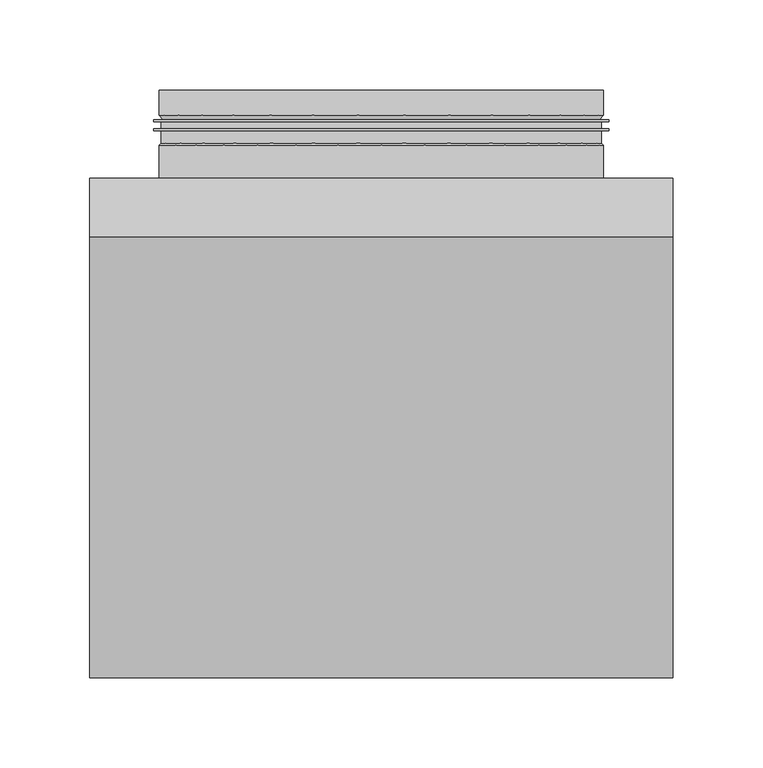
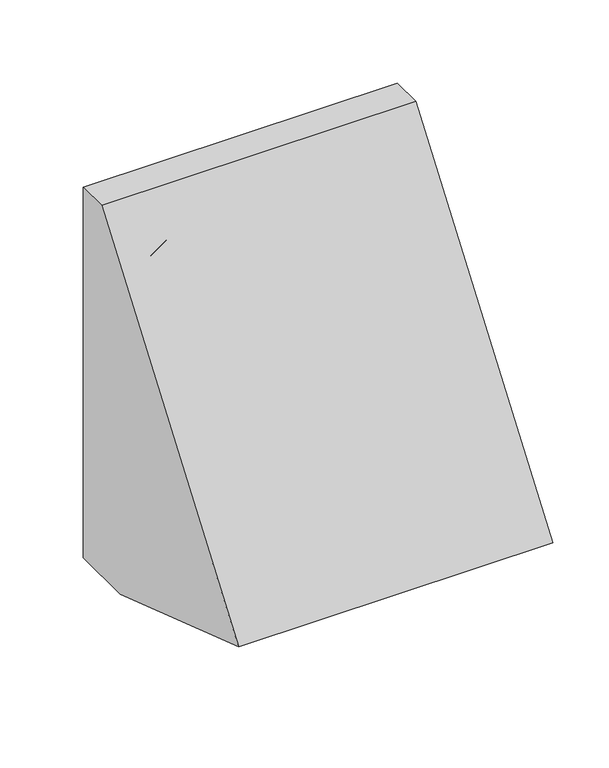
"""IFC4 building model written with IfcOpenShell, lengths in millimetres: air terminal geometry, NLRS_57_AIR_WPB_Elytra_WT_M&G : 324 x 404 x 278 - Ø 250 mm."""

from ifc_helpers import new_model, si_unit, frame, origin, place, context, project, spatial, polyline, circle_curve, faceted_brep, source, transform, mapped, element, save
from ifc_brep_helpers import plane_surface, cylinder_surface, revolved_surface, advanced_brep


def air_terminal_0787e866(model_context):
    return source(origin(), model_context, "Body", "SolidModel", [
        faceted_brep([(162.0, 0.0, 205.0), (162.0, -32.4210799, 205.0), (162.0, -277.6671198, -127.8649457), (162.0, -66.2177358, -199.0), (162.0, 0.0, -199.0), (-162.0, 0.0, 205.0), (-162.0, 0.0, -199.0), (-162.0, -66.2177358, -199.0), (-162.0, -277.6671198, -127.8649457), (-162.0, -32.4210799, 205.0), (160.0, -66.2177358, -199.0), (160.0, 0.0, -199.0), (-160.7366, 0.0, -199.0), (-160.7366, -66.2177358, -199.0), (-160.7366, -275.7403322, -128.5131488), (160.0, -275.7403322, -128.5131488), (160.0, 0.0, -159.0), (-160.7366, 0.0, -159.0), (160.0, 0.0, -157.0), (160.0, 0.0, 158.0), (-160.7366, 0.0, 158.0), (-160.7366, 0.0, -157.0), (-42.8, -32.5, 104.55), (-42.8, -30.5, 104.55), (-42.8, -30.5, 120.15), (-42.8, -32.5, 120.15), (-15.4, -30.5, 120.15), (-15.4, -32.5, 120.15), (-15.4, -30.5, 104.55), (-15.4, -32.5, 104.55), (-13.7, -32.5, 104.55), (-13.7, -30.5, 104.55), (-13.7, -30.5, 120.15), (-13.7, -32.5, 120.15), (13.7, -30.5, 120.15), (13.7, -32.5, 120.15), (13.7, -30.5, 104.55), (13.7, -32.5, 104.55), (15.4, -32.5, 104.55), (15.4, -30.5, 104.55), (15.4, -30.5, 120.15), (15.4, -32.5, 120.15), (42.8, -30.5, 120.15), (42.8, -32.5, 120.15), (42.8, -30.5, 104.55), (42.8, -32.5, 104.55), (-57.35, -32.5, 87.25), (-57.35, -30.5, 87.25), (-57.35, -30.5, 102.85), (-57.35, -32.5, 102.85), (-29.95, -30.5, 102.85), (-29.95, -32.5, 102.85), (-29.95, -30.5, 87.25), (-29.95, -32.5, 87.25), (-28.25, -32.5, 87.25), (-28.25, -30.5, 87.25), (-28.25, -30.5, 102.85), (-28.25, -32.5, 102.85), (-0.85, -30.5, 102.85), (-0.85, -32.5, 102.85), (-0.85, -30.5, 87.25), (-0.85, -32.5, 87.25), (0.85, -32.5, 87.25), (0.85, -30.5, 87.25), (0.85, -30.5, 102.85), (0.85, -32.5, 102.85), (28.25, -30.5, 102.85), (28.25, -32.5, 102.85), (28.25, -30.5, 87.25), (28.25, -32.5, 87.25), (29.95, -32.5, 87.25), (29.95, -30.5, 87.25), (29.95, -30.5, 102.85), (29.95, -32.5, 102.85), (57.35, -30.5, 102.85), (57.35, -32.5, 102.85), (57.35, -30.5, 87.25), (57.35, -32.5, 87.25), (-71.9, -32.5, 69.95), (-71.9, -30.5, 69.95), (-71.9, -30.5, 85.55), (-71.9, -32.5, 85.55), (-44.5, -30.5, 85.55), (-44.5, -32.5, 85.55), (-44.5, -30.5, 69.95), (-44.5, -32.5, 69.95), (-42.8, -32.5, 69.95), (-42.8, -30.5, 69.95), (-42.8, -30.5, 85.55), (-42.8, -32.5, 85.55), (-15.4, -30.5, 85.55), (-15.4, -32.5, 85.55), (-15.4, -30.5, 69.95), (-15.4, -32.5, 69.95), (-13.7, -32.5, 69.95), (-13.7, -30.5, 69.95), (-13.7, -30.5, 85.55), (-13.7, -32.5, 85.55), (13.7, -30.5, 85.55), (13.7, -32.5, 85.55), (13.7, -30.5, 69.95), (13.7, -32.5, 69.95), (15.4, -32.5, 69.95), (15.4, -30.5, 69.95), (15.4, -30.5, 85.55), (15.4, -32.5, 85.55), (42.8, -30.5, 85.55), (42.8, -32.5, 85.55), (42.8, -30.5, 69.95), (42.8, -32.5, 69.95), (44.5, -32.5, 69.95), (44.5, -30.5, 69.95), (44.5, -30.5, 85.55), (44.5, -32.5, 85.55), (71.9, -30.5, 85.55), (71.9, -32.5, 85.55), (71.9, -30.5, 69.95), (71.9, -32.5, 69.95), (-86.45, -32.5, 52.65), (-86.45, -30.5, 52.65), (-86.45, -30.5, 68.25), (-86.45, -32.5, 68.25), (-59.05, -30.5, 68.25), (-59.05, -32.5, 68.25), (-59.05, -30.5, 52.65), (-59.05, -32.5, 52.65), (-57.35, -32.5, 52.65), (-57.35, -30.5, 52.65), (-57.35, -30.5, 68.25), (-57.35, -32.5, 68.25), (-29.95, -30.5, 68.25), (-29.95, -32.5, 68.25), (-29.95, -30.5, 52.65), (-29.95, -32.5, 52.65), (-28.25, -32.5, 52.65), (-28.25, -30.5, 52.65), (-28.25, -30.5, 68.25), (-28.25, -32.5, 68.25), (-0.85, -30.5, 68.25), (-0.85, -32.5, 68.25), (-0.85, -30.5, 52.65), (-0.85, -32.5, 52.65), (0.85, -32.5, 52.65), (0.85, -30.5, 52.65), (0.85, -30.5, 68.25), (0.85, -32.5, 68.25), (28.25, -30.5, 68.25), (28.25, -32.5, 68.25), (28.25, -30.5, 52.65), (28.25, -32.5, 52.65), (29.95, -32.5, 52.65), (29.95, -30.5, 52.65), (29.95, -30.5, 68.25), (29.95, -32.5, 68.25), (57.35, -30.5, 68.25), (57.35, -32.5, 68.25), (57.35, -30.5, 52.65), (57.35, -32.5, 52.65), (59.05, -32.5, 52.65), (59.05, -30.5, 52.65), (59.05, -30.5, 68.25), (59.05, -32.5, 68.25), (86.45, -30.5, 68.25), (86.45, -32.5, 68.25), (86.45, -30.5, 52.65), (86.45, -32.5, 52.65), (-101.0, -32.5, 35.35), (-101.0, -30.5, 35.35), (-101.0, -30.5, 50.95), (-101.0, -32.5, 50.95), (-73.6, -30.5, 50.95), (-73.6, -32.5, 50.95), (-73.6, -30.5, 35.35), (-73.6, -32.5, 35.35), (-71.9, -32.5, 35.35), (-71.9, -30.5, 35.35), (-71.9, -30.5, 50.95), (-71.9, -32.5, 50.95), (-44.5, -30.5, 50.95), (-44.5, -32.5, 50.95), (-44.5, -30.5, 35.35), (-44.5, -32.5, 35.35), (-42.8, -32.5, 35.35), (-42.8, -30.5, 35.35), (-42.8, -30.5, 50.95), (-42.8, -32.5, 50.95), (-15.4, -30.5, 50.95), (-15.4, -32.5, 50.95), (-15.4, -30.5, 35.35), (-15.4, -32.5, 35.35), (-13.7, -32.5, 35.35), (-13.7, -30.5, 35.35), (-13.7, -30.5, 50.95), (-13.7, -32.5, 50.95), (13.7, -30.5, 50.95), (13.7, -32.5, 50.95), (13.7, -30.5, 35.35), (13.7, -32.5, 35.35), (15.4, -32.5, 35.35), (15.4, -30.5, 35.35), (15.4, -30.5, 50.95), (15.4, -32.5, 50.95), (42.8, -30.5, 50.95), (42.8, -32.5, 50.95), (42.8, -30.5, 35.35), (42.8, -32.5, 35.35), (44.5, -32.5, 35.35), (44.5, -30.5, 35.35), (44.5, -30.5, 50.95), (44.5, -32.5, 50.95), (71.9, -30.5, 50.95), (71.9, -32.5, 50.95), (71.9, -30.5, 35.35), (71.9, -32.5, 35.35), (73.6, -32.5, 35.35), (73.6, -30.5, 35.35), (73.6, -30.5, 50.95), (73.6, -32.5, 50.95), (101.0, -30.5, 50.95), (101.0, -32.5, 50.95), (101.0, -30.5, 35.35), (101.0, -32.5, 35.35), (-115.55, -32.5, 18.05), (-115.55, -30.5, 18.05), (-115.55, -30.5, 33.65), (-115.55, -32.5, 33.65), (-88.15, -30.5, 33.65), (-88.15, -32.5, 33.65), (-88.15, -30.5, 18.05), (-88.15, -32.5, 18.05), (-86.45, -32.5, 18.05), (-86.45, -30.5, 18.05), (-86.45, -30.5, 33.65), (-86.45, -32.5, 33.65), (-59.05, -30.5, 33.65), (-59.05, -32.5, 33.65), (-59.05, -30.5, 18.05), (-59.05, -32.5, 18.05), (-57.35, -32.5, 18.05), (-57.35, -30.5, 18.05), (-57.35, -30.5, 33.65), (-57.35, -32.5, 33.65), (-29.95, -30.5, 33.65), (-29.95, -32.5, 33.65), (-29.95, -30.5, 18.05), (-29.95, -32.5, 18.05), (-28.25, -32.5, 18.05), (-28.25, -30.5, 18.05), (-28.25, -30.5, 33.65), (-28.25, -32.5, 33.65), (-0.85, -30.5, 33.65), (-0.85, -32.5, 33.65), (-0.85, -30.5, 18.05), (-0.85, -32.5, 18.05), (0.85, -32.5, 18.05), (0.85, -30.5, 18.05), (0.85, -30.5, 33.65), (0.85, -32.5, 33.65), (28.25, -30.5, 33.65), (28.25, -32.5, 33.65), (28.25, -30.5, 18.05), (28.25, -32.5, 18.05), (29.95, -32.5, 18.05), (29.95, -30.5, 18.05), (29.95, -30.5, 33.65), (29.95, -32.5, 33.65), (57.35, -30.5, 33.65), (57.35, -32.5, 33.65), (57.35, -30.5, 18.05), (57.35, -32.5, 18.05), (59.05, -32.5, 18.05), (59.05, -30.5, 18.05), (59.05, -30.5, 33.65), (59.05, -32.5, 33.65), (86.45, -30.5, 33.65), (86.45, -32.5, 33.65), (86.45, -30.5, 18.05), (86.45, -32.5, 18.05), (88.15, -32.5, 18.05), (88.15, -30.5, 18.05), (88.15, -30.5, 33.65), (88.15, -32.5, 33.65), (115.55, -30.5, 33.65), (115.55, -32.5, 33.65), (115.55, -30.5, 18.05), (115.55, -32.5, 18.05), (-101.0, -32.5, 0.75), (-101.0, -30.5, 0.75), (-101.0, -30.5, 16.35), (-101.0, -32.5, 16.35), (-73.6, -30.5, 16.35), (-73.6, -32.5, 16.35), (-73.6, -30.5, 0.75), (-73.6, -32.5, 0.75), (-71.9, -32.5, 0.75), (-71.9, -30.5, 0.75), (-71.9, -30.5, 16.35), (-71.9, -32.5, 16.35), (-44.5, -30.5, 16.35), (-44.5, -32.5, 16.35), (-44.5, -30.5, 0.75), (-44.5, -32.5, 0.75), (-42.8, -32.5, 0.75), (-42.8, -30.5, 0.75), (-42.8, -30.5, 16.35), (-42.8, -32.5, 16.35), (-15.4, -30.5, 16.35), (-15.4, -32.5, 16.35), (-15.4, -30.5, 0.75), (-15.4, -32.5, 0.75), (-13.7, -32.5, 0.75), (-13.7, -30.5, 0.75), (-13.7, -30.5, 16.35), (-13.7, -32.5, 16.35), (13.7, -30.5, 16.35), (13.7, -32.5, 16.35), (13.7, -30.5, 0.75), (13.7, -32.5, 0.75), (15.4, -32.5, 0.75), (15.4, -30.5, 0.75), (15.4, -30.5, 16.35), (15.4, -32.5, 16.35), (42.8, -30.5, 16.35), (42.8, -32.5, 16.35), (42.8, -30.5, 0.75), (42.8, -32.5, 0.75), (44.5, -32.5, 0.75), (44.5, -30.5, 0.75), (44.5, -30.5, 16.35), (44.5, -32.5, 16.35), (71.9, -30.5, 16.35), (71.9, -32.5, 16.35), (71.9, -30.5, 0.75), (71.9, -32.5, 0.75), (73.6, -32.5, 0.75), (73.6, -30.5, 0.75), (73.6, -30.5, 16.35), (73.6, -32.5, 16.35), (101.0, -30.5, 16.35), (101.0, -32.5, 16.35), (101.0, -30.5, 0.75), (101.0, -32.5, 0.75), (-115.55, -32.5, -16.55), (-115.55, -30.5, -16.55), (-115.55, -30.5, -0.95), (-115.55, -32.5, -0.95), (-88.15, -30.5, -0.95), (-88.15, -32.5, -0.95), (-88.15, -30.5, -16.55), (-88.15, -32.5, -16.55), (-86.45, -32.5, -16.55), (-86.45, -30.5, -16.55), (-86.45, -30.5, -0.95), (-86.45, -32.5, -0.95), (-59.05, -30.5, -0.95), (-59.05, -32.5, -0.95), (-59.05, -30.5, -16.55), (-59.05, -32.5, -16.55), (-57.35, -32.5, -16.55), (-57.35, -30.5, -16.55), (-57.35, -30.5, -0.95), (-57.35, -32.5, -0.95), (-29.95, -30.5, -0.95), (-29.95, -32.5, -0.95), (-29.95, -30.5, -16.55), (-29.95, -32.5, -16.55), (-28.25, -32.5, -16.55), (-28.25, -30.5, -16.55), (-28.25, -30.5, -0.95), (-28.25, -32.5, -0.95), (-0.85, -30.5, -0.95), (-0.85, -32.5, -0.95), (-0.85, -30.5, -16.55), (-0.85, -32.5, -16.55), (0.85, -32.5, -16.55), (0.85, -30.5, -16.55), (0.85, -30.5, -0.95), (0.85, -32.5, -0.95), (28.25, -30.5, -0.95), (28.25, -32.5, -0.95), (28.25, -30.5, -16.55), (28.25, -32.5, -16.55), (29.95, -32.5, -16.55), (29.95, -30.5, -16.55), (29.95, -30.5, -0.95), (29.95, -32.5, -0.95), (57.35, -30.5, -0.95), (57.35, -32.5, -0.95), (57.35, -30.5, -16.55), (57.35, -32.5, -16.55), (59.05, -32.5, -16.55), (59.05, -30.5, -16.55), (59.05, -30.5, -0.95), (59.05, -32.5, -0.95), (86.45, -30.5, -0.95), (86.45, -32.5, -0.95), (86.45, -30.5, -16.55), (86.45, -32.5, -16.55), (88.15, -32.5, -16.55), (88.15, -30.5, -16.55), (88.15, -30.5, -0.95), (88.15, -32.5, -0.95), (115.55, -30.5, -0.95), (115.55, -32.5, -0.95), (115.55, -30.5, -16.55), (115.55, -32.5, -16.55), (-101.0, -32.5, -33.85), (-101.0, -30.5, -33.85), (-101.0, -30.5, -18.25), (-101.0, -32.5, -18.25), (-73.6, -30.5, -18.25), (-73.6, -32.5, -18.25), (-73.6, -30.5, -33.85), (-73.6, -32.5, -33.85), (-71.9, -32.5, -33.85), (-71.9, -30.5, -33.85), (-71.9, -30.5, -18.25), (-71.9, -32.5, -18.25), (-44.5, -30.5, -18.25), (-44.5, -32.5, -18.25), (-44.5, -30.5, -33.85), (-44.5, -32.5, -33.85), (-42.8, -32.5, -33.85), (-42.8, -30.5, -33.85), (-42.8, -30.5, -18.25), (-42.8, -32.5, -18.25), (-15.4, -30.5, -18.25), (-15.4, -32.5, -18.25), (-15.4, -30.5, -33.85), (-15.4, -32.5, -33.85), (-13.7, -32.5, -33.85), (-13.7, -30.5, -33.85), (-13.7, -30.5, -18.25), (-13.7, -32.5, -18.25), (13.7, -30.5, -18.25), (13.7, -32.5, -18.25), (13.7, -30.5, -33.85), (13.7, -32.5, -33.85), (15.4, -32.5, -33.85), (15.4, -30.5, -33.85), (15.4, -30.5, -18.25), (15.4, -32.5, -18.25), (42.8, -30.5, -18.25), (42.8, -32.5, -18.25), (42.8, -30.5, -33.85), (42.8, -32.5, -33.85), (44.5, -32.5, -33.85), (44.5, -30.5, -33.85), (44.5, -30.5, -18.25), (44.5, -32.5, -18.25), (71.9, -30.5, -18.25), (71.9, -32.5, -18.25), (71.9, -30.5, -33.85), (71.9, -32.5, -33.85), (73.6, -32.5, -33.85), (73.6, -30.5, -33.85), (73.6, -30.5, -18.25), (73.6, -32.5, -18.25), (101.0, -30.5, -18.25), (101.0, -32.5, -18.25), (101.0, -30.5, -33.85), (101.0, -32.5, -33.85), (-115.55, -32.5, -51.15), (-115.55, -30.5, -51.15), (-115.55, -30.5, -35.55), (-115.55, -32.5, -35.55), (-88.15, -30.5, -35.55), (-88.15, -32.5, -35.55), (-88.15, -30.5, -51.15), (-88.15, -32.5, -51.15), (-86.45, -32.5, -51.15), (-86.45, -30.5, -51.15), (-86.45, -30.5, -35.55), (-86.45, -32.5, -35.55), (-59.05, -30.5, -35.55), (-59.05, -32.5, -35.55), (-59.05, -30.5, -51.15), (-59.05, -32.5, -51.15), (-57.35, -32.5, -51.15), (-57.35, -30.5, -51.15), (-57.35, -30.5, -35.55), (-57.35, -32.5, -35.55), (-29.95, -30.5, -35.55), (-29.95, -32.5, -35.55), (-29.95, -30.5, -51.15), (-29.95, -32.5, -51.15), (-28.25, -32.5, -51.15), (-28.25, -30.5, -51.15), (-28.25, -30.5, -35.55), (-28.25, -32.5, -35.55), (-0.85, -30.5, -35.55), (-0.85, -32.5, -35.55), (-0.85, -30.5, -51.15), (-0.85, -32.5, -51.15), (0.85, -32.5, -51.15), (0.85, -30.5, -51.15), (0.85, -30.5, -35.55), (0.85, -32.5, -35.55), (28.25, -30.5, -35.55), (28.25, -32.5, -35.55), (28.25, -30.5, -51.15), (28.25, -32.5, -51.15), (29.95, -32.5, -51.15), (29.95, -30.5, -51.15), (29.95, -30.5, -35.55), (29.95, -32.5, -35.55), (57.35, -30.5, -35.55), (57.35, -32.5, -35.55), (57.35, -30.5, -51.15), (57.35, -32.5, -51.15), (59.05, -32.5, -51.15), (59.05, -30.5, -51.15), (59.05, -30.5, -35.55), (59.05, -32.5, -35.55), (86.45, -30.5, -35.55), (86.45, -32.5, -35.55), (86.45, -30.5, -51.15), (86.45, -32.5, -51.15), (88.15, -32.5, -51.15), (88.15, -30.5, -51.15), (88.15, -30.5, -35.55), (88.15, -32.5, -35.55), (115.55, -30.5, -35.55), (115.55, -32.5, -35.55), (115.55, -30.5, -51.15), (115.55, -32.5, -51.15), (-101.0, -32.5, -68.45), (-101.0, -30.5, -68.45), (-101.0, -30.5, -52.85), (-101.0, -32.5, -52.85), (-73.6, -30.5, -52.85), (-73.6, -32.5, -52.85), (-73.6, -30.5, -68.45), (-73.6, -32.5, -68.45), (-71.9, -32.5, -68.45), (-71.9, -30.5, -68.45), (-71.9, -30.5, -52.85), (-71.9, -32.5, -52.85), (-44.5, -30.5, -52.85), (-44.5, -32.5, -52.85), (-44.5, -30.5, -68.45), (-44.5, -32.5, -68.45), (-42.8, -32.5, -68.45), (-42.8, -30.5, -68.45), (-42.8, -30.5, -52.85), (-42.8, -32.5, -52.85), (-15.4, -30.5, -52.85), (-15.4, -32.5, -52.85), (-15.4, -30.5, -68.45), (-15.4, -32.5, -68.45), (-13.7, -32.5, -68.45), (-13.7, -30.5, -68.45), (-13.7, -30.5, -52.85), (-13.7, -32.5, -52.85), (13.7, -30.5, -52.85), (13.7, -32.5, -52.85), (13.7, -30.5, -68.45), (13.7, -32.5, -68.45), (15.4, -32.5, -68.45), (15.4, -30.5, -68.45), (15.4, -30.5, -52.85), (15.4, -32.5, -52.85), (42.8, -30.5, -52.85), (42.8, -32.5, -52.85), (42.8, -30.5, -68.45), (42.8, -32.5, -68.45), (44.5, -32.5, -68.45), (44.5, -30.5, -68.45), (44.5, -30.5, -52.85), (44.5, -32.5, -52.85), (71.9, -30.5, -52.85), (71.9, -32.5, -52.85), (71.9, -30.5, -68.45), (71.9, -32.5, -68.45), (73.6, -32.5, -68.45), (73.6, -30.5, -68.45), (73.6, -30.5, -52.85), (73.6, -32.5, -52.85), (101.0, -30.5, -52.85), (101.0, -32.5, -52.85), (101.0, -30.5, -68.45), (101.0, -32.5, -68.45), (-86.45, -32.5, -85.75), (-86.45, -30.5, -85.75), (-86.45, -30.5, -70.15), (-86.45, -32.5, -70.15), (-59.05, -30.5, -70.15), (-59.05, -32.5, -70.15), (-59.05, -30.5, -85.75), (-59.05, -32.5, -85.75), (-57.35, -32.5, -85.75), (-57.35, -30.5, -85.75), (-57.35, -30.5, -70.15), (-57.35, -32.5, -70.15), (-29.95, -30.5, -70.15), (-29.95, -32.5, -70.15), (-29.95, -30.5, -85.75), (-29.95, -32.5, -85.75), (-28.25, -32.5, -85.75), (-28.25, -30.5, -85.75), (-28.25, -30.5, -70.15), (-28.25, -32.5, -70.15), (-0.85, -30.5, -70.15), (-0.85, -32.5, -70.15), (-0.85, -30.5, -85.75), (-0.85, -32.5, -85.75), (0.85, -32.5, -85.75), (0.85, -30.5, -85.75), (0.85, -30.5, -70.15), (0.85, -32.5, -70.15), (28.25, -30.5, -70.15), (28.25, -32.5, -70.15), (28.25, -30.5, -85.75), (28.25, -32.5, -85.75), (29.95, -32.5, -85.75), (29.95, -30.5, -85.75), (29.95, -30.5, -70.15), (29.95, -32.5, -70.15), (57.35, -30.5, -70.15), (57.35, -32.5, -70.15), (57.35, -30.5, -85.75), (57.35, -32.5, -85.75), (59.05, -32.5, -85.75), (59.05, -30.5, -85.75), (59.05, -30.5, -70.15), (59.05, -32.5, -70.15), (86.45, -30.5, -70.15), (86.45, -32.5, -70.15), (86.45, -30.5, -85.75), (86.45, -32.5, -85.75), (-71.9, -32.5, -103.05), (-71.9, -30.5, -103.05), (-71.9, -30.5, -87.45), (-71.9, -32.5, -87.45), (-44.5, -30.5, -87.45), (-44.5, -32.5, -87.45), (-44.5, -30.5, -103.05), (-44.5, -32.5, -103.05), (-42.8, -32.5, -103.05), (-42.8, -30.5, -103.05), (-42.8, -30.5, -87.45), (-42.8, -32.5, -87.45), (-15.4, -30.5, -87.45), (-15.4, -32.5, -87.45), (-15.4, -30.5, -103.05), (-15.4, -32.5, -103.05), (-13.7, -32.5, -103.05), (-13.7, -30.5, -103.05), (-13.7, -30.5, -87.45), (-13.7, -32.5, -87.45), (13.7, -30.5, -87.45), (13.7, -32.5, -87.45), (13.7, -30.5, -103.05), (13.7, -32.5, -103.05), (15.4, -32.5, -103.05), (15.4, -30.5, -103.05), (15.4, -30.5, -87.45), (15.4, -32.5, -87.45), (42.8, -30.5, -87.45), (42.8, -32.5, -87.45), (42.8, -30.5, -103.05), (42.8, -32.5, -103.05), (44.5, -32.5, -103.05), (44.5, -30.5, -103.05), (44.5, -30.5, -87.45), (44.5, -32.5, -87.45), (71.9, -30.5, -87.45), (71.9, -32.5, -87.45), (71.9, -30.5, -103.05), (71.9, -32.5, -103.05), (-28.25, -32.5, -120.35), (-28.25, -30.5, -120.35), (-28.25, -30.5, -104.75), (-28.25, -32.5, -104.75), (-0.85, -30.5, -104.75), (-0.85, -32.5, -104.75), (-0.85, -30.5, -120.35), (-0.85, -32.5, -120.35), (0.85, -32.5, -120.35), (0.85, -30.5, -120.35), (0.85, -30.5, -104.75), (0.85, -32.5, -104.75), (28.25, -30.5, -104.75), (28.25, -32.5, -104.75), (28.25, -30.5, -120.35), (28.25, -32.5, -120.35), (-114.2, -32.5, 0.75), (-114.2, -30.5, 0.75), (-114.2, -30.5, 16.35), (-114.2, -32.5, 16.35), (-102.7, -30.5, 16.35), (-102.7, -32.5, 16.35), (-102.7, -30.5, 0.75), (-102.7, -32.5, 0.75), (-114.2, -32.5, 35.35), (-114.2, -30.5, 35.35), (-114.2, -30.5, 50.95), (-114.2, -32.5, 50.95), (-102.7, -30.5, 50.95), (-102.7, -32.5, 50.95), (-102.7, -30.5, 35.35), (-102.7, -32.5, 35.35), (-99.65, -32.5, 52.65), (-99.65, -30.5, 52.65), (-99.65, -30.5, 68.25), (-99.65, -32.5, 68.25), (-88.15, -30.5, 68.25), (-88.15, -32.5, 68.25), (-88.15, -30.5, 52.65), (-88.15, -32.5, 52.65), (-85.1, -32.5, 69.95), (-85.1, -30.5, 69.95), (-85.1, -30.5, 85.55), (-85.1, -32.5, 85.55), (-73.6, -30.5, 85.55), (-73.6, -32.5, 85.55), (-73.6, -30.5, 69.95), (-73.6, -32.5, 69.95), (-70.55, -32.5, 87.25), (-70.55, -30.5, 87.25), (-70.55, -30.5, 102.85), (-70.55, -32.5, 102.85), (-59.05, -30.5, 102.85), (-59.05, -32.5, 102.85), (-59.05, -30.5, 87.25), (-59.05, -32.5, 87.25), (114.2, -32.5, 35.35), (114.2, -30.5, 35.35), (102.7, -30.5, 35.35), (102.7, -32.5, 35.35), (102.7, -30.5, 50.95), (102.7, -32.5, 50.95), (114.2, -30.5, 50.95), (114.2, -32.5, 50.95), (99.65, -32.5, 52.65), (99.65, -30.5, 52.65), (88.15, -30.5, 52.65), (88.15, -32.5, 52.65), (88.15, -30.5, 68.25), (88.15, -32.5, 68.25), (99.65, -30.5, 68.25), (99.65, -32.5, 68.25), (85.1, -32.5, 69.95), (85.1, -30.5, 69.95), (73.6, -30.5, 69.95), (73.6, -32.5, 69.95), (73.6, -30.5, 85.55), (73.6, -32.5, 85.55), (85.1, -30.5, 85.55), (85.1, -32.5, 85.55), (70.55, -32.5, 87.25), (70.55, -30.5, 87.25), (59.05, -30.5, 87.25), (59.05, -32.5, 87.25), (59.05, -30.5, 102.85), (59.05, -32.5, 102.85), (70.55, -30.5, 102.85), (70.55, -32.5, 102.85), (114.2, -32.5, 0.75), (114.2, -30.5, 0.75), (102.7, -30.5, 0.75), (102.7, -32.5, 0.75), (102.7, -30.5, 16.35), (102.7, -32.5, 16.35), (114.2, -30.5, 16.35), (114.2, -32.5, 16.35), (-114.2, -32.5, -33.85), (-114.2, -30.5, -33.85), (-114.2, -30.5, -18.25), (-114.2, -32.5, -18.25), (-102.7, -30.5, -18.25), (-102.7, -32.5, -18.25), (-102.7, -30.5, -33.85), (-102.7, -32.5, -33.85), (-41.45, -32.5, -120.35), (-41.45, -30.5, -120.35), (-41.45, -30.5, -104.75), (-41.45, -32.5, -104.75), (-29.95, -30.5, -104.75), (-29.95, -32.5, -104.75), (-29.95, -30.5, -120.35), (-29.95, -32.5, -120.35), (114.2, -32.5, -33.85), (114.2, -30.5, -33.85), (102.7, -30.5, -33.85), (102.7, -32.5, -33.85), (102.7, -30.5, -18.25), (102.7, -32.5, -18.25), (114.2, -30.5, -18.25), (114.2, -32.5, -18.25), (41.45, -32.5, -120.35), (41.45, -30.5, -120.35), (29.95, -30.5, -120.35), (29.95, -32.5, -120.35), (29.95, -30.5, -104.75), (29.95, -32.5, -104.75), (41.45, -30.5, -104.75), (41.45, -32.5, -104.75), (160.0, -30.5, -157.0), (160.0, -30.5, 158.0), (160.0, -2.0, 203.5), (160.0, -2.0, 160.0), (160.0, -32.5, 160.0), (160.0, -32.5, -159.0), (160.0, -31.1199938, 203.5), (-160.7366, -2.0, 203.5), (-160.7366, -31.1199938, 203.5), (-160.7366, -32.5, -159.0), (-160.7366, -32.5, 160.0), (-160.7366, -2.0, 160.0), (-160.7366, -30.5, 158.0), (-160.7366, -30.5, -157.0)], [[[0, 1, 2, 3, 4]], [[5, 6, 7, 8, 9]], [[1, 0, 5, 9]], [[2, 1, 9, 8]], [[4, 3, 10, 11]], [[7, 6, 12, 13]], [[3, 2, 8, 7, 13, 14, 15, 10]], [[0, 4, 11, 16, 17, 12, 6, 5], [18, 19, 20, 21]], [[22, 23, 24, 25]], [[25, 24, 26, 27]], [[27, 26, 28, 29]], [[23, 22, 29, 28]], [[30, 31, 32, 33]], [[33, 32, 34, 35]], [[35, 34, 36, 37]], [[31, 30, 37, 36]], [[38, 39, 40, 41]], [[41, 40, 42, 43]], [[43, 42, 44, 45]], [[39, 38, 45, 44]], [[46, 47, 48, 49]], [[49, 48, 50, 51]], [[51, 50, 52, 53]], [[47, 46, 53, 52]], [[54, 55, 56, 57]], [[57, 56, 58, 59]], [[59, 58, 60, 61]], [[55, 54, 61, 60]], [[62, 63, 64, 65]], [[65, 64, 66, 67]], [[67, 66, 68, 69]], [[63, 62, 69, 68]], [[70, 71, 72, 73]], [[73, 72, 74, 75]], [[75, 74, 76, 77]], [[71, 70, 77, 76]], [[78, 79, 80, 81]], [[81, 80, 82, 83]], [[83, 82, 84, 85]], [[79, 78, 85, 84]], [[86, 87, 88, 89]], [[89, 88, 90, 91]], [[91, 90, 92, 93]], [[87, 86, 93, 92]], [[94, 95, 96, 97]], [[97, 96, 98, 99]], [[99, 98, 100, 101]], [[95, 94, 101, 100]], [[102, 103, 104, 105]], [[105, 104, 106, 107]], [[107, 106, 108, 109]], [[103, 102, 109, 108]], [[110, 111, 112, 113]], [[113, 112, 114, 115]], [[115, 114, 116, 117]], [[111, 110, 117, 116]], [[118, 119, 120, 121]], [[121, 120, 122, 123]], [[123, 122, 124, 125]], [[119, 118, 125, 124]], [[126, 127, 128, 129]], [[129, 128, 130, 131]], [[131, 130, 132, 133]], [[127, 126, 133, 132]], [[134, 135, 136, 137]], [[137, 136, 138, 139]], [[139, 138, 140, 141]], [[135, 134, 141, 140]], [[142, 143, 144, 145]], [[145, 144, 146, 147]], [[147, 146, 148, 149]], [[143, 142, 149, 148]], [[150, 151, 152, 153]], [[153, 152, 154, 155]], [[155, 154, 156, 157]], [[151, 150, 157, 156]], [[158, 159, 160, 161]], [[161, 160, 162, 163]], [[163, 162, 164, 165]], [[159, 158, 165, 164]], [[166, 167, 168, 169]], [[169, 168, 170, 171]], [[171, 170, 172, 173]], [[167, 166, 173, 172]], [[174, 175, 176, 177]], [[177, 176, 178, 179]], [[179, 178, 180, 181]], [[175, 174, 181, 180]], [[182, 183, 184, 185]], [[185, 184, 186, 187]], [[187, 186, 188, 189]], [[183, 182, 189, 188]], [[190, 191, 192, 193]], [[193, 192, 194, 195]], [[195, 194, 196, 197]], [[191, 190, 197, 196]], [[198, 199, 200, 201]], [[201, 200, 202, 203]], [[203, 202, 204, 205]], [[199, 198, 205, 204]], [[206, 207, 208, 209]], [[209, 208, 210, 211]], [[211, 210, 212, 213]], [[207, 206, 213, 212]], [[214, 215, 216, 217]], [[217, 216, 218, 219]], [[219, 218, 220, 221]], [[215, 214, 221, 220]], [[222, 223, 224, 225]], [[225, 224, 226, 227]], [[227, 226, 228, 229]], [[223, 222, 229, 228]], [[230, 231, 232, 233]], [[233, 232, 234, 235]], [[235, 234, 236, 237]], [[231, 230, 237, 236]], [[238, 239, 240, 241]], [[241, 240, 242, 243]], [[243, 242, 244, 245]], [[239, 238, 245, 244]], [[246, 247, 248, 249]], [[249, 248, 250, 251]], [[251, 250, 252, 253]], [[247, 246, 253, 252]], [[254, 255, 256, 257]], [[257, 256, 258, 259]], [[259, 258, 260, 261]], [[255, 254, 261, 260]], [[262, 263, 264, 265]], [[265, 264, 266, 267]], [[267, 266, 268, 269]], [[263, 262, 269, 268]], [[270, 271, 272, 273]], [[273, 272, 274, 275]], [[275, 274, 276, 277]], [[271, 270, 277, 276]], [[278, 279, 280, 281]], [[281, 280, 282, 283]], [[283, 282, 284, 285]], [[279, 278, 285, 284]], [[286, 287, 288, 289]], [[289, 288, 290, 291]], [[291, 290, 292, 293]], [[287, 286, 293, 292]], [[294, 295, 296, 297]], [[297, 296, 298, 299]], [[299, 298, 300, 301]], [[295, 294, 301, 300]], [[302, 303, 304, 305]], [[305, 304, 306, 307]], [[307, 306, 308, 309]], [[303, 302, 309, 308]], [[310, 311, 312, 313]], [[313, 312, 314, 315]], [[315, 314, 316, 317]], [[311, 310, 317, 316]], [[318, 319, 320, 321]], [[321, 320, 322, 323]], [[323, 322, 324, 325]], [[319, 318, 325, 324]], [[326, 327, 328, 329]], [[329, 328, 330, 331]], [[331, 330, 332, 333]], [[327, 326, 333, 332]], [[334, 335, 336, 337]], [[337, 336, 338, 339]], [[339, 338, 340, 341]], [[335, 334, 341, 340]], [[342, 343, 344, 345]], [[345, 344, 346, 347]], [[347, 346, 348, 349]], [[343, 342, 349, 348]], [[350, 351, 352, 353]], [[353, 352, 354, 355]], [[355, 354, 356, 357]], [[351, 350, 357, 356]], [[358, 359, 360, 361]], [[361, 360, 362, 363]], [[363, 362, 364, 365]], [[359, 358, 365, 364]], [[366, 367, 368, 369]], [[369, 368, 370, 371]], [[371, 370, 372, 373]], [[367, 366, 373, 372]], [[374, 375, 376, 377]], [[377, 376, 378, 379]], [[379, 378, 380, 381]], [[375, 374, 381, 380]], [[382, 383, 384, 385]], [[385, 384, 386, 387]], [[387, 386, 388, 389]], [[383, 382, 389, 388]], [[390, 391, 392, 393]], [[393, 392, 394, 395]], [[395, 394, 396, 397]], [[391, 390, 397, 396]], [[398, 399, 400, 401]], [[401, 400, 402, 403]], [[403, 402, 404, 405]], [[399, 398, 405, 404]], [[406, 407, 408, 409]], [[409, 408, 410, 411]], [[411, 410, 412, 413]], [[407, 406, 413, 412]], [[414, 415, 416, 417]], [[417, 416, 418, 419]], [[419, 418, 420, 421]], [[415, 414, 421, 420]], [[422, 423, 424, 425]], [[425, 424, 426, 427]], [[427, 426, 428, 429]], [[423, 422, 429, 428]], [[430, 431, 432, 433]], [[433, 432, 434, 435]], [[435, 434, 436, 437]], [[431, 430, 437, 436]], [[438, 439, 440, 441]], [[441, 440, 442, 443]], [[443, 442, 444, 445]], [[439, 438, 445, 444]], [[446, 447, 448, 449]], [[449, 448, 450, 451]], [[451, 450, 452, 453]], [[447, 446, 453, 452]], [[454, 455, 456, 457]], [[457, 456, 458, 459]], [[459, 458, 460, 461]], [[455, 454, 461, 460]], [[462, 463, 464, 465]], [[465, 464, 466, 467]], [[467, 466, 468, 469]], [[463, 462, 469, 468]], [[470, 471, 472, 473]], [[473, 472, 474, 475]], [[475, 474, 476, 477]], [[471, 470, 477, 476]], [[478, 479, 480, 481]], [[481, 480, 482, 483]], [[483, 482, 484, 485]], [[479, 478, 485, 484]], [[486, 487, 488, 489]], [[489, 488, 490, 491]], [[491, 490, 492, 493]], [[487, 486, 493, 492]], [[494, 495, 496, 497]], [[497, 496, 498, 499]], [[499, 498, 500, 501]], [[495, 494, 501, 500]], [[502, 503, 504, 505]], [[505, 504, 506, 507]], [[507, 506, 508, 509]], [[503, 502, 509, 508]], [[510, 511, 512, 513]], [[513, 512, 514, 515]], [[515, 514, 516, 517]], [[511, 510, 517, 516]], [[518, 519, 520, 521]], [[521, 520, 522, 523]], [[523, 522, 524, 525]], [[519, 518, 525, 524]], [[526, 527, 528, 529]], [[529, 528, 530, 531]], [[531, 530, 532, 533]], [[527, 526, 533, 532]], [[534, 535, 536, 537]], [[537, 536, 538, 539]], [[539, 538, 540, 541]], [[535, 534, 541, 540]], [[542, 543, 544, 545]], [[545, 544, 546, 547]], [[547, 546, 548, 549]], [[543, 542, 549, 548]], [[550, 551, 552, 553]], [[553, 552, 554, 555]], [[555, 554, 556, 557]], [[551, 550, 557, 556]], [[558, 559, 560, 561]], [[561, 560, 562, 563]], [[563, 562, 564, 565]], [[559, 558, 565, 564]], [[566, 567, 568, 569]], [[569, 568, 570, 571]], [[571, 570, 572, 573]], [[567, 566, 573, 572]], [[574, 575, 576, 577]], [[577, 576, 578, 579]], [[579, 578, 580, 581]], [[575, 574, 581, 580]], [[582, 583, 584, 585]], [[585, 584, 586, 587]], [[587, 586, 588, 589]], [[583, 582, 589, 588]], [[590, 591, 592, 593]], [[593, 592, 594, 595]], [[595, 594, 596, 597]], [[591, 590, 597, 596]], [[598, 599, 600, 601]], [[601, 600, 602, 603]], [[603, 602, 604, 605]], [[599, 598, 605, 604]], [[606, 607, 608, 609]], [[609, 608, 610, 611]], [[611, 610, 612, 613]], [[607, 606, 613, 612]], [[614, 615, 616, 617]], [[617, 616, 618, 619]], [[619, 618, 620, 621]], [[615, 614, 621, 620]], [[622, 623, 624, 625]], [[625, 624, 626, 627]], [[627, 626, 628, 629]], [[623, 622, 629, 628]], [[630, 631, 632, 633]], [[633, 632, 634, 635]], [[635, 634, 636, 637]], [[631, 630, 637, 636]], [[638, 639, 640, 641]], [[641, 640, 642, 643]], [[643, 642, 644, 645]], [[639, 638, 645, 644]], [[646, 647, 648, 649]], [[649, 648, 650, 651]], [[651, 650, 652, 653]], [[647, 646, 653, 652]], [[654, 655, 656, 657]], [[657, 656, 658, 659]], [[659, 658, 660, 661]], [[655, 654, 661, 660]], [[662, 663, 664, 665]], [[665, 664, 666, 667]], [[667, 666, 668, 669]], [[663, 662, 669, 668]], [[670, 671, 672, 673]], [[673, 672, 674, 675]], [[675, 674, 676, 677]], [[671, 670, 677, 676]], [[678, 679, 680, 681]], [[681, 680, 682, 683]], [[683, 682, 684, 685]], [[679, 678, 685, 684]], [[686, 687, 688, 689]], [[689, 688, 690, 691]], [[691, 690, 692, 693]], [[687, 686, 693, 692]], [[694, 695, 696, 697]], [[697, 696, 698, 699]], [[699, 698, 700, 701]], [[695, 694, 701, 700]], [[702, 703, 704, 705]], [[705, 704, 706, 707]], [[707, 706, 708, 709]], [[703, 702, 709, 708]], [[710, 711, 712, 713]], [[713, 712, 714, 715]], [[715, 714, 716, 717]], [[711, 710, 717, 716]], [[718, 719, 720, 721]], [[721, 720, 722, 723]], [[723, 722, 724, 725]], [[719, 718, 725, 724]], [[726, 727, 728, 729]], [[729, 728, 730, 731]], [[731, 730, 732, 733]], [[727, 726, 733, 732]], [[734, 735, 736, 737]], [[737, 736, 738, 739]], [[739, 738, 740, 741]], [[735, 734, 741, 740]], [[742, 743, 744, 745]], [[745, 744, 746, 747]], [[747, 746, 748, 749]], [[743, 742, 749, 748]], [[750, 751, 752, 753]], [[753, 752, 754, 755]], [[755, 754, 756, 757]], [[751, 750, 757, 756]], [[758, 759, 760, 761]], [[761, 760, 762, 763]], [[763, 762, 764, 765]], [[759, 758, 765, 764]], [[766, 767, 768, 769]], [[769, 768, 770, 771]], [[771, 770, 772, 773]], [[767, 766, 773, 772]], [[774, 775, 776, 777]], [[777, 776, 778, 779]], [[779, 778, 780, 781]], [[775, 774, 781, 780]], [[782, 783, 784, 785]], [[785, 784, 786, 787]], [[787, 786, 788, 789]], [[783, 782, 789, 788]], [[790, 791, 792, 793]], [[793, 792, 794, 795]], [[795, 794, 796, 797]], [[791, 790, 797, 796]], [[18, 798, 799, 19]], [[800, 801, 802, 803, 16, 11, 10, 15, 804]], [[805, 806, 14, 13, 12, 17, 807, 808, 809]], [[20, 810, 811, 21]], [[800, 804, 806, 805]], [[804, 15, 14, 806]], [[16, 803, 807, 17]], [[803, 802, 808, 807], [22, 25, 27, 29], [30, 33, 35, 37], [38, 41, 43, 45], [46, 49, 51, 53], [54, 57, 59, 61], [62, 65, 67, 69], [70, 73, 75, 77], [78, 81, 83, 85], [86, 89, 91, 93], [94, 97, 99, 101], [102, 105, 107, 109], [110, 113, 115, 117], [118, 121, 123, 125], [126, 129, 131, 133], [134, 137, 139, 141], [142, 145, 147, 149], [150, 153, 155, 157], [158, 161, 163, 165], [166, 169, 171, 173], [174, 177, 179, 181], [182, 185, 187, 189], [190, 193, 195, 197], [198, 201, 203, 205], [206, 209, 211, 213], [214, 217, 219, 221], [222, 225, 227, 229], [230, 233, 235, 237], [238, 241, 243, 245], [246, 249, 251, 253], [254, 257, 259, 261], [262, 265, 267, 269], [270, 273, 275, 277], [278, 281, 283, 285], [286, 289, 291, 293], [294, 297, 299, 301], [302, 305, 307, 309], [310, 313, 315, 317], [318, 321, 323, 325], [326, 329, 331, 333], [334, 337, 339, 341], [342, 345, 347, 349], [350, 353, 355, 357], [358, 361, 363, 365], [366, 369, 371, 373], [374, 377, 379, 381], [382, 385, 387, 389], [390, 393, 395, 397], [398, 401, 403, 405], [406, 409, 411, 413], [414, 417, 419, 421], [422, 425, 427, 429], [430, 433, 435, 437], [438, 441, 443, 445], [446, 449, 451, 453], [454, 457, 459, 461], [462, 465, 467, 469], [470, 473, 475, 477], [478, 481, 483, 485], [486, 489, 491, 493], [494, 497, 499, 501], [502, 505, 507, 509], [510, 513, 515, 517], [518, 521, 523, 525], [526, 529, 531, 533], [534, 537, 539, 541], [542, 545, 547, 549], [550, 553, 555, 557], [558, 561, 563, 565], [566, 569, 571, 573], [574, 577, 579, 581], [582, 585, 587, 589], [590, 593, 595, 597], [598, 601, 603, 605], [606, 609, 611, 613], [614, 617, 619, 621], [622, 625, 627, 629], [630, 633, 635, 637], [638, 641, 643, 645], [646, 649, 651, 653], [654, 657, 659, 661], [662, 665, 667, 669], [670, 673, 675, 677], [678, 681, 683, 685], [686, 689, 691, 693], [694, 697, 699, 701], [702, 705, 707, 709], [710, 713, 715, 717], [718, 721, 723, 725], [726, 729, 731, 733], [734, 737, 739, 741], [742, 745, 747, 749], [750, 753, 755, 757], [758, 761, 763, 765], [766, 769, 771, 773], [774, 777, 779, 781], [782, 785, 787, 789], [790, 793, 795, 797]], [[802, 801, 809, 808]], [[19, 799, 810, 20]], [[799, 798, 811, 810], [24, 23, 28, 26], [32, 31, 36, 34], [40, 39, 44, 42], [48, 47, 52, 50], [56, 55, 60, 58], [64, 63, 68, 66], [72, 71, 76, 74], [80, 79, 84, 82], [88, 87, 92, 90], [96, 95, 100, 98], [104, 103, 108, 106], [112, 111, 116, 114], [120, 119, 124, 122], [128, 127, 132, 130], [136, 135, 140, 138], [144, 143, 148, 146], [152, 151, 156, 154], [160, 159, 164, 162], [168, 167, 172, 170], [176, 175, 180, 178], [184, 183, 188, 186], [192, 191, 196, 194], [200, 199, 204, 202], [208, 207, 212, 210], [216, 215, 220, 218], [224, 223, 228, 226], [232, 231, 236, 234], [240, 239, 244, 242], [248, 247, 252, 250], [256, 255, 260, 258], [264, 263, 268, 266], [272, 271, 276, 274], [280, 279, 284, 282], [288, 287, 292, 290], [296, 295, 300, 298], [304, 303, 308, 306], [312, 311, 316, 314], [320, 319, 324, 322], [328, 327, 332, 330], [336, 335, 340, 338], [344, 343, 348, 346], [352, 351, 356, 354], [360, 359, 364, 362], [368, 367, 372, 370], [376, 375, 380, 378], [384, 383, 388, 386], [392, 391, 396, 394], [400, 399, 404, 402], [408, 407, 412, 410], [416, 415, 420, 418], [424, 423, 428, 426], [432, 431, 436, 434], [440, 439, 444, 442], [448, 447, 452, 450], [456, 455, 460, 458], [464, 463, 468, 466], [472, 471, 476, 474], [480, 479, 484, 482], [488, 487, 492, 490], [496, 495, 500, 498], [504, 503, 508, 506], [512, 511, 516, 514], [520, 519, 524, 522], [528, 527, 532, 530], [536, 535, 540, 538], [544, 543, 548, 546], [552, 551, 556, 554], [560, 559, 564, 562], [568, 567, 572, 570], [576, 575, 580, 578], [584, 583, 588, 586], [592, 591, 596, 594], [600, 599, 604, 602], [608, 607, 612, 610], [616, 615, 620, 618], [624, 623, 628, 626], [632, 631, 636, 634], [640, 639, 644, 642], [648, 647, 652, 650], [656, 655, 660, 658], [664, 663, 668, 666], [672, 671, 676, 674], [680, 679, 684, 682], [688, 687, 692, 690], [696, 695, 700, 698], [704, 703, 708, 706], [712, 711, 716, 714], [720, 719, 724, 722], [728, 727, 732, 730], [736, 735, 740, 738], [744, 743, 748, 746], [752, 751, 756, 754], [760, 759, 764, 762], [768, 767, 772, 770], [776, 775, 780, 778], [784, 783, 788, 786], [792, 791, 796, 794]], [[798, 18, 21, 811]], [[801, 800, 805, 809]]]),
        advanced_brep(
        [(123.5, 35.0, 0.0), (-123.5, 35.0, 0.0), (-123.5, 49.0, 0.0), (123.5, 49.0, 0.0), (121.208232, 32.3635612, 0.0), (-121.208232, 32.3635612, 0.0), (126.5, 32.3635612, 0.0), (-126.5, 32.3635612, 0.0), (126.5, 31.3635612, 0.0), (-126.5, 31.3635612, 0.0), (122.5, 31.3635612, 0.0), (-122.5, 31.3635612, 0.0), (122.5, 27.3635612, 0.0), (-122.5, 27.3635612, 0.0), (126.5, 27.3635612, 0.0), (-126.5, 27.3635612, 0.0), (126.5, 26.3635612, 0.0), (-126.5, 26.3635612, 0.0), (122.5, 26.3635612, 0.0), (-122.5, 26.3635612, 0.0), (122.5, 19.4409318, 0.0), (-122.5, 19.4409318, 0.0), (123.5, 18.4409318, 0.0), (-123.5, 18.4409318, 0.0), (123.5, -29.5590682, 0.0), (-123.5, -29.5590682, 0.0), (133.5, -29.5590682, 0.0), (-133.5, -29.5590682, 0.0), (133.5, -30.5, 0.0), (-133.5, -30.5, 0.0), (122.5, -30.5, 0.0), (-122.5, -30.5, 0.0), (122.5, 18.0267182, 0.0), (-122.5, 18.0267182, 0.0), (120.3389655, 20.1877527, 0.0), (-120.3389655, 20.1877527, 0.0), (122.5, 35.3738781, 0.0), (-122.5, 35.3738781, 0.0), (-120.3389655, 32.8878345, 0.0), (120.3389655, 32.8878345, 0.0), (122.5, 49.0, 0.0), (-122.5, 49.0, 0.0)],
        [
            (0, 1, circle_curve(frame((0.0, 35.0, 0.0), z_axis=(0.0, 1.0, 0.0), x_axis=(-1.0, 0.0, 0.0)), 123.5)),
            (1, 2),
            (2, 3, circle_curve(frame((0.0, 49.0, 0.0), z_axis=(0.0, -1.0, 0.0), x_axis=(-1.0, 0.0, 0.0)), 123.5)),
            (3, 0),
            (1, 0, circle_curve(frame((0.0, 35.0, 0.0), z_axis=(0.0, 1.0, 0.0), x_axis=(-1.0, 0.0, 0.0)), 123.5)),
            (3, 2, circle_curve(frame((0.0, 49.0, 0.0), z_axis=(0.0, -1.0, 0.0), x_axis=(-1.0, 0.0, 0.0)), 123.5)),
            (4, 5, circle_curve(frame((0.0, 32.3635612, 0.0), z_axis=(0.0, 1.0, 0.0), x_axis=(-1.0, 0.0, 0.0)), 121.208232)),
            (5, 1),
            (0, 4),
            (5, 4, circle_curve(frame((0.0, 32.3635612, 0.0), z_axis=(0.0, 1.0, 0.0), x_axis=(-1.0, 0.0, 0.0)), 121.208232)),
            (6, 7, circle_curve(frame((0.0, 32.3635612, 0.0), z_axis=(0.0, 1.0, 0.0), x_axis=(-1.0, 0.0, 0.0)), 126.5)),
            (7, 5),
            (4, 6),
            (7, 6, circle_curve(frame((0.0, 32.3635612, 0.0), z_axis=(0.0, 1.0, 0.0), x_axis=(-1.0, 0.0, 0.0)), 126.5)),
            (8, 9, circle_curve(frame((0.0, 31.3635612, 0.0), z_axis=(0.0, 1.0, 0.0), x_axis=(-1.0, 0.0, 0.0)), 126.5)),
            (9, 7),
            (6, 8),
            (9, 8, circle_curve(frame((0.0, 31.3635612, 0.0), z_axis=(0.0, 1.0, 0.0), x_axis=(-1.0, 0.0, 0.0)), 126.5)),
            (10, 11, circle_curve(frame((0.0, 31.3635612, 0.0), z_axis=(0.0, 1.0, 0.0), x_axis=(-1.0, 0.0, 0.0)), 122.5)),
            (11, 9),
            (8, 10),
            (11, 10, circle_curve(frame((0.0, 31.3635612, 0.0), z_axis=(0.0, 1.0, 0.0), x_axis=(-1.0, 0.0, 0.0)), 122.5)),
            (12, 13, circle_curve(frame((0.0, 27.3635612, 0.0), z_axis=(0.0, 1.0, 0.0), x_axis=(-1.0, 0.0, 0.0)), 122.5)),
            (13, 11),
            (10, 12),
            (13, 12, circle_curve(frame((0.0, 27.3635612, 0.0), z_axis=(0.0, 1.0, 0.0), x_axis=(-1.0, 0.0, 0.0)), 122.5)),
            (14, 15, circle_curve(frame((0.0, 27.3635612, 0.0), z_axis=(0.0, 1.0, 0.0), x_axis=(-1.0, 0.0, 0.0)), 126.5)),
            (15, 13),
            (12, 14),
            (15, 14, circle_curve(frame((0.0, 27.3635612, 0.0), z_axis=(0.0, 1.0, 0.0), x_axis=(-1.0, 0.0, 0.0)), 126.5)),
            (16, 17, circle_curve(frame((0.0, 26.3635612, 0.0), z_axis=(0.0, 1.0, 0.0), x_axis=(-1.0, 0.0, 0.0)), 126.5)),
            (17, 15),
            (14, 16),
            (17, 16, circle_curve(frame((0.0, 26.3635612, 0.0), z_axis=(0.0, 1.0, 0.0), x_axis=(-1.0, 0.0, 0.0)), 126.5)),
            (18, 19, circle_curve(frame((0.0, 26.3635612, 0.0), z_axis=(0.0, 1.0, 0.0), x_axis=(-1.0, 0.0, 0.0)), 122.5)),
            (19, 17),
            (16, 18),
            (19, 18, circle_curve(frame((0.0, 26.3635612, 0.0), z_axis=(0.0, 1.0, 0.0), x_axis=(-1.0, 0.0, 0.0)), 122.5)),
            (20, 21, circle_curve(frame((0.0, 19.4409318, 0.0), z_axis=(0.0, 1.0, 0.0), x_axis=(-1.0, 0.0, 0.0)), 122.5)),
            (21, 19),
            (18, 20),
            (21, 20, circle_curve(frame((0.0, 19.4409318, 0.0), z_axis=(0.0, 1.0, 0.0), x_axis=(-1.0, 0.0, 0.0)), 122.5)),
            (22, 23, circle_curve(frame((0.0, 18.4409318, 0.0), z_axis=(0.0, 1.0, 0.0), x_axis=(-1.0, 0.0, 0.0)), 123.5)),
            (23, 21),
            (20, 22),
            (23, 22, circle_curve(frame((0.0, 18.4409318, 0.0), z_axis=(0.0, 1.0, 0.0), x_axis=(-1.0, 0.0, 0.0)), 123.5)),
            (24, 25, circle_curve(frame((0.0, -29.5590682, 0.0), z_axis=(0.0, 1.0, 0.0), x_axis=(-1.0, 0.0, 0.0)), 123.5)),
            (25, 23),
            (22, 24),
            (25, 24, circle_curve(frame((0.0, -29.5590682, 0.0), z_axis=(0.0, 1.0, 0.0), x_axis=(-1.0, 0.0, 0.0)), 123.5)),
            (26, 27, circle_curve(frame((0.0, -29.5590682, 0.0), z_axis=(0.0, 1.0, 0.0), x_axis=(-1.0, 0.0, 0.0)), 133.5)),
            (27, 25),
            (24, 26),
            (27, 26, circle_curve(frame((0.0, -29.5590682, 0.0), z_axis=(0.0, 1.0, 0.0), x_axis=(-1.0, 0.0, 0.0)), 133.5)),
            (28, 29, circle_curve(frame((0.0, -30.5, 0.0), z_axis=(0.0, 1.0, 0.0), x_axis=(-1.0, 0.0, 0.0)), 133.5)),
            (29, 27),
            (26, 28),
            (29, 28, circle_curve(frame((0.0, -30.5, 0.0), z_axis=(0.0, 1.0, 0.0), x_axis=(-1.0, 0.0, 0.0)), 133.5)),
            (30, 31, circle_curve(frame((0.0, -30.5, 0.0), z_axis=(0.0, 1.0, 0.0), x_axis=(-1.0, 0.0, 0.0)), 122.5)),
            (31, 29),
            (28, 30),
            (31, 30, circle_curve(frame((0.0, -30.5, 0.0), z_axis=(0.0, 1.0, 0.0), x_axis=(-1.0, 0.0, 0.0)), 122.5)),
            (32, 33, circle_curve(frame((0.0, 18.0267182, 0.0), z_axis=(0.0, 1.0, 0.0), x_axis=(-1.0, 0.0, 0.0)), 122.5)),
            (33, 31),
            (30, 32),
            (33, 32, circle_curve(frame((0.0, 18.0267182, 0.0), z_axis=(0.0, 1.0, 0.0), x_axis=(-1.0, 0.0, 0.0)), 122.5)),
            (34, 35, circle_curve(frame((0.0, 20.1877527, 0.0), z_axis=(0.0, 1.0, 0.0), x_axis=(-1.0, 0.0, 0.0)), 120.3389655)),
            (35, 33),
            (32, 34),
            (35, 34, circle_curve(frame((0.0, 20.1877527, 0.0), z_axis=(0.0, 1.0, 0.0), x_axis=(-1.0, 0.0, 0.0)), 120.3389655)),
            (36, 37, circle_curve(frame((0.0, 35.3738781, 0.0), z_axis=(0.0, 1.0, 0.0), x_axis=(-1.0, 0.0, 0.0)), 122.5)),
            (37, 38),
            (38, 39, circle_curve(frame((0.0, 32.8878345, 0.0), z_axis=(0.0, -1.0, 0.0), x_axis=(-1.0, 0.0, 0.0)), 120.3389655)),
            (39, 36),
            (37, 36, circle_curve(frame((0.0, 35.3738781, 0.0), z_axis=(0.0, 1.0, 0.0), x_axis=(-1.0, 0.0, 0.0)), 122.5)),
            (39, 38, circle_curve(frame((0.0, 32.8878345, 0.0), z_axis=(0.0, -1.0, 0.0), x_axis=(-1.0, 0.0, 0.0)), 120.3389655)),
            (40, 41, circle_curve(frame((0.0, 49.0, 0.0), z_axis=(0.0, 1.0, 0.0), x_axis=(-1.0, 0.0, 0.0)), 122.5)),
            (41, 37),
            (36, 40),
            (41, 40, circle_curve(frame((0.0, 49.0, 0.0), z_axis=(0.0, 1.0, 0.0), x_axis=(-1.0, 0.0, 0.0)), 122.5)),
            (2, 41),
            (40, 3),
            (38, 35),
            (34, 39),
        ],
        [
            cylinder_surface(frame((0.0, 1839.3097982, 0.0), z_axis=(0.0, -1.0, 0.0), x_axis=(-1.0, 0.0, 0.0)), 123.5),
            revolved_surface(polyline([(-123.5, 35.0, 0.0), (-121.208232, 32.3635612, 0.0)]), (0.0, 1839.3097982, 0.0), (0.0, -1.0, 0.0)),
            plane_surface(frame((0.0, 32.3635612, 0.0), z_axis=(0.0, 1.0, 0.0), x_axis=(-1.0, 0.0, 0.0))),
            cylinder_surface(frame((0.0, 1839.3097982, 0.0), z_axis=(0.0, -1.0, 0.0), x_axis=(-1.0, 0.0, 0.0)), 126.5),
            plane_surface(frame((0.0, 31.3635612, 0.0), z_axis=(0.0, -1.0, 0.0), x_axis=(-1.0, 0.0, 0.0))),
            cylinder_surface(frame((0.0, 1839.3097982, 0.0), z_axis=(0.0, -1.0, 0.0), x_axis=(-1.0, 0.0, 0.0)), 122.5),
            plane_surface(frame((0.0, 27.3635612, 0.0), z_axis=(0.0, 1.0, 0.0), x_axis=(-1.0, 0.0, 0.0))),
            plane_surface(frame((0.0, 26.3635612, 0.0), z_axis=(0.0, -1.0, 0.0), x_axis=(-1.0, 0.0, 0.0))),
            revolved_surface(polyline([(-122.5, 19.4409318, 0.0), (-123.5, 18.4409318, 0.0)]), (0.0, 1839.3097982, 0.0), (0.0, -1.0, 0.0)),
            plane_surface(frame((0.0, -29.5590682, 0.0), z_axis=(0.0, 1.0, 0.0), x_axis=(-1.0, 0.0, 0.0))),
            cylinder_surface(frame((0.0, 1839.3097982, 0.0), z_axis=(0.0, -1.0, 0.0), x_axis=(-1.0, 0.0, 0.0)), 133.5),
            plane_surface(frame((0.0, -30.5, 0.0), z_axis=(0.0, -1.0, 0.0), x_axis=(-1.0, 0.0, 0.0))),
            revolved_surface(polyline([(-122.5, -30.5, 0.0), (-122.5, 18.026718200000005, 0.0)]), (0.0, 1839.3097982, 0.0), (0.0, -1.0, 0.0)),
            revolved_surface(polyline([(-122.5, 18.0267182, 0.0), (-120.3389655, 20.1877527, 0.0)]), (0.0, 1839.3097982, 0.0), (0.0, -1.0, 0.0)),
            revolved_surface(polyline([(-120.3389655, 32.8878345, 0.0), (-122.5, 35.3738781, 0.0)]), (0.0, 1839.3097982, 0.0), (0.0, -1.0, 0.0)),
            revolved_surface(polyline([(-122.5, 35.373878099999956, 0.0), (-122.5, 49.0, 0.0)]), (0.0, 1839.3097982, 0.0), (0.0, -1.0, 0.0)),
            plane_surface(frame((0.0, 49.0, 0.0), z_axis=(0.0, 1.0, 0.0), x_axis=(-1.0, 0.0, 0.0))),
            revolved_surface(polyline([(-120.3389655, 20.18775269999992, 0.0), (-120.3389655, 32.887834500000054, 0.0)]), (0.0, 1839.3097982, 0.0), (0.0, -1.0, 0.0)),
        ],
        [
            (0, [[1, 2, 3, 4]]),
            (0, [[5, -4, 6, -2]]),
            (1, [[7, 8, -1, 9]]),
            (1, [[10, -9, -5, -8]]),
            (2, [[11, 12, -7, 13]]),
            (2, [[14, -13, -10, -12]]),
            (3, [[15, 16, -11, 17]]),
            (3, [[18, -17, -14, -16]]),
            (4, [[19, 20, -15, 21]]),
            (4, [[22, -21, -18, -20]]),
            (5, [[23, 24, -19, 25]]),
            (5, [[26, -25, -22, -24]]),
            (6, [[27, 28, -23, 29]]),
            (6, [[30, -29, -26, -28]]),
            (3, [[31, 32, -27, 33]]),
            (3, [[34, -33, -30, -32]]),
            (7, [[35, 36, -31, 37]]),
            (7, [[38, -37, -34, -36]]),
            (5, [[39, 40, -35, 41]]),
            (5, [[42, -41, -38, -40]]),
            (8, [[43, 44, -39, 45]]),
            (8, [[46, -45, -42, -44]]),
            (0, [[47, 48, -43, 49]]),
            (0, [[50, -49, -46, -48]]),
            (9, [[51, 52, -47, 53]]),
            (9, [[54, -53, -50, -52]]),
            (10, [[55, 56, -51, 57]]),
            (10, [[58, -57, -54, -56]]),
            (11, [[59, 60, -55, 61]]),
            (11, [[62, -61, -58, -60]]),
            (12, [[63, 64, -59, 65]]),
            (12, [[66, -65, -62, -64]]),
            (13, [[67, 68, -63, 69]]),
            (13, [[70, -69, -66, -68]]),
            (14, [[71, 72, 73, 74]]),
            (14, [[75, -74, 76, -72]]),
            (15, [[77, 78, -71, 79]]),
            (15, [[80, -79, -75, -78]]),
            (16, [[-3, 81, -77, 82]]),
            (16, [[-6, -82, -80, -81]]),
            (17, [[-73, 83, -67, 84]]),
            (17, [[-76, -84, -70, -83]]),
        ],
    ),
    ])


if __name__ == "__main__":
    model = new_model("IFC4")
    model_context = context("Model", 3, world=origin())
    ifc_project = project(units=[si_unit("LENGTHUNIT", "METRE", prefix="MILLI")], contexts=[model_context])
    site = spatial("IfcSite", under=ifc_project)
    building = spatial("IfcBuilding", under=site)
    placement = place(None, origin())
    air_terminal_shape = air_terminal_0787e866(model_context)
    element("IfcAirTerminal", 1, ObjectType="NLRS_57_AIR_WPB_Elytra_WT_M&G : 324 x 404 x 278 - Ø 250 mm", at=placement, inside=building, context=model_context, shape_type="MappedRepresentation", body=[
        mapped(air_terminal_shape, transform((0.0, 0.0, 0.0), x_axis=(1.0, 0.0, 0.0), y_axis=(0.0, 1.0, 0.0), z_axis=(0.0, 0.0, 1.0))),
    ])
    save(model, "model.ifc")
